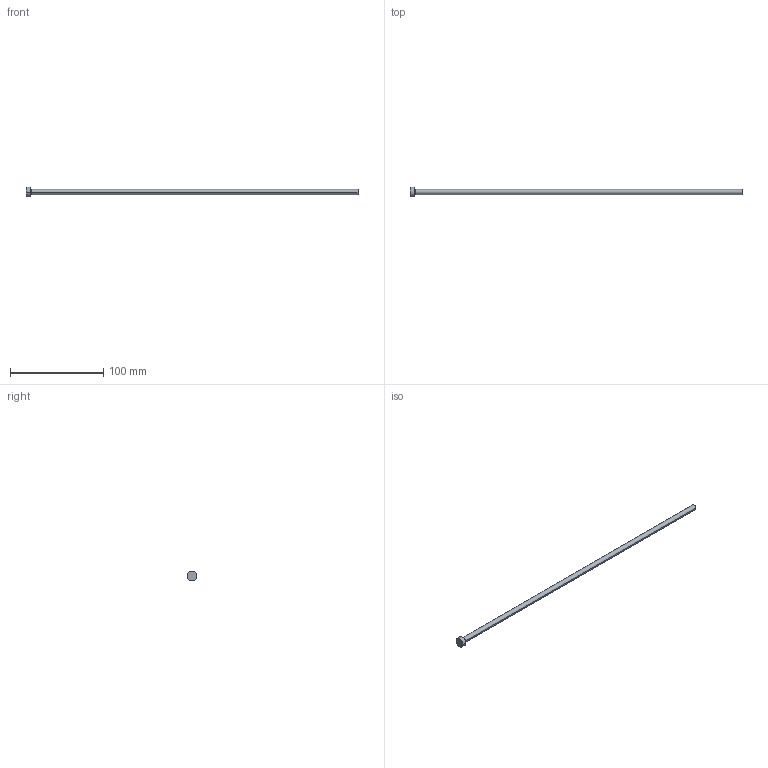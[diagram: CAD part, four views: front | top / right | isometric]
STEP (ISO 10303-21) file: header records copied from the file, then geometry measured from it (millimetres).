
FILE_DESCRIPTION (( 'STEP AP214' ), '1' );
FILE_NAME ('P15-14.STEP', '2020-03-11T18:31:18', ( '' ), ( '' ), 'SwSTEP 2.0', 'SolidWorks 2018', '' );
FILE_SCHEMA (( 'AUTOMOTIVE_DESIGN' ));
Length unit declared in the file: inch
Products named in the file (1): P15-14
Bounding box: 355.6 x 10.32 x 10.32 mm (x, y, z)
Volume: 8883.6 mm3; surface area: 6427.9 mm2
Topology: 1 solids, 1 shells, 13 faces, 24 edges, 14 vertices
Faces by surface type: cone 4, cylinder 4, plane 3, torus 2
Entity records: 366 total; most frequent: DIRECTION 68, CARTESIAN_POINT 52, ORIENTED_EDGE 48, AXIS2_PLACEMENT_3D 30, EDGE_CURVE 24, CIRCLE 16, VERTEX_POINT 14, EDGE_LOOP 14
